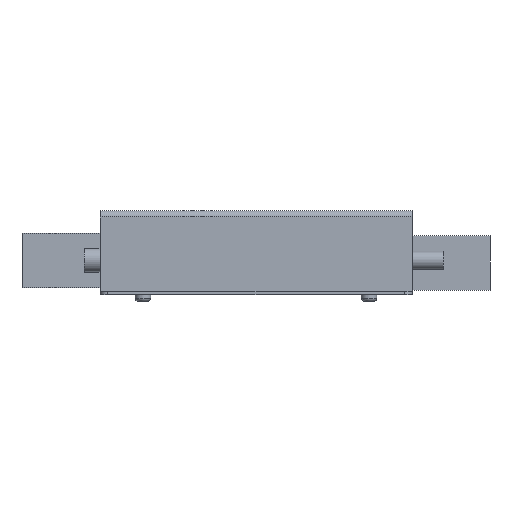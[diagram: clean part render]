
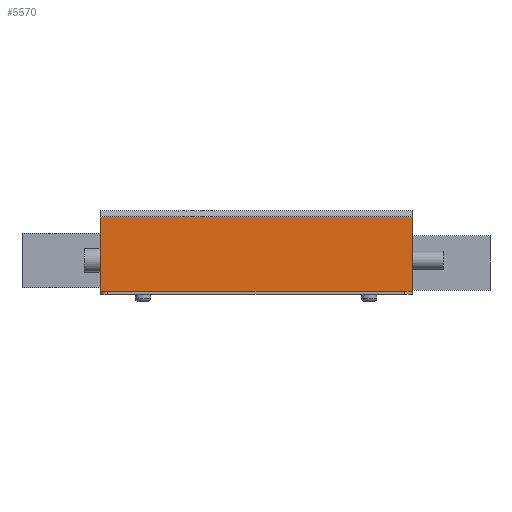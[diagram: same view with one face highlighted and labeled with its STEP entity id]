
A CAD part, left-side view. The second image highlights one B-rep face of the part: STEP entity #5570.
In plain terms, the highlighted planar face has unit normal (-1, 0, 0).
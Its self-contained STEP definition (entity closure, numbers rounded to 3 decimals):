
#682=ORIENTED_EDGE('',*,*,#1645,.F.);
#683=ORIENTED_EDGE('',*,*,#1643,.T.);
#684=ORIENTED_EDGE('',*,*,#1646,.T.);
#685=ORIENTED_EDGE('',*,*,#1647,.T.);
#1643=EDGE_CURVE('',#2069,#2068,#2565,.F.);
#1645=EDGE_CURVE('',#2069,#2070,#2566,.T.);
#1646=EDGE_CURVE('',#2068,#2071,#2567,.T.);
#1647=EDGE_CURVE('',#2071,#2070,#2568,.T.);
#2068=VERTEX_POINT('',#7847);
#2069=VERTEX_POINT('',#7849);
#2070=VERTEX_POINT('',#7853);
#2071=VERTEX_POINT('',#7855);
#2565=LINE('',#7848,#3019);
#2566=LINE('',#7852,#3020);
#2567=LINE('',#7854,#3021);
#2568=LINE('',#7856,#3022);
#3019=VECTOR('',#6642,1000.);
#3020=VECTOR('',#6647,1000.);
#3021=VECTOR('',#6648,1000.);
#3022=VECTOR('',#6649,1000.);
#3238=EDGE_LOOP('',(#682,#683,#684,#685));
#3518=FACE_BOUND('',#3238,.T.);
#3792=PLANE('',#5816);
#5570=ADVANCED_FACE('',(#3518),#3792,.T.);
#5816=AXIS2_PLACEMENT_3D('',#7851,#6645,#6646);
#6642=DIRECTION('',(0.,-1.,0.));
#6645=DIRECTION('',(-1.,0.,0.));
#6646=DIRECTION('',(0.,0.,1.));
#6647=DIRECTION('',(0.,0.,-1.));
#6648=DIRECTION('',(0.,0.,-1.));
#6649=DIRECTION('',(0.,-1.,0.));
#7847=CARTESIAN_POINT('',(-107.,125.,25.));
#7848=CARTESIAN_POINT('',(-107.,125.,25.));
#7849=CARTESIAN_POINT('',(-107.,-75.,25.));
#7851=CARTESIAN_POINT('',(-107.,125.,29.));
#7852=CARTESIAN_POINT('',(-107.,-75.,29.));
#7853=CARTESIAN_POINT('',(-107.,-75.,-23.));
#7854=CARTESIAN_POINT('',(-107.,125.,29.));
#7855=CARTESIAN_POINT('',(-107.,125.,-23.));
#7856=CARTESIAN_POINT('',(-107.,125.,-23.));
